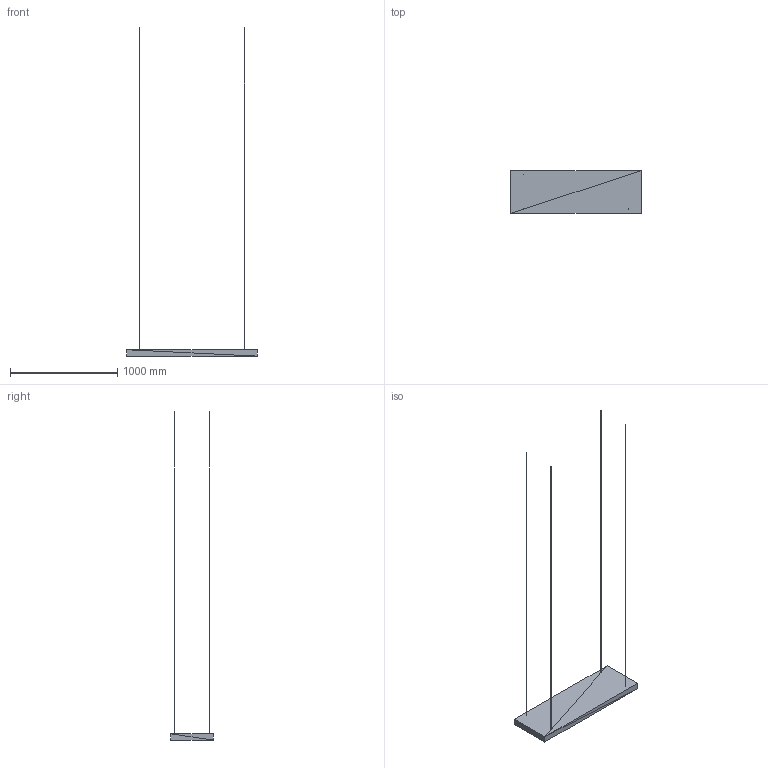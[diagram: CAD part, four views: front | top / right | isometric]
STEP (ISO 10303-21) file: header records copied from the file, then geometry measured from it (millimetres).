
FILE_DESCRIPTION(('ISINAC STEP AP214'),'2;1');
FILE_NAME('ISINAC_R.1220.400_60mm_COLGADO','2026-05-03T10:49:19',('ISINAC'),('www.isinac.com'),'ISINAC BIM Generator 1.0','','');
FILE_SCHEMA(('AUTOMOTIVE_DESIGN'));
Length unit declared in the file: millimetre
Products named in the file (1): ISINAC_R.1220.400_60mm_COLGADO
Bounding box: 1220 x 400 x 3060 mm (x, y, z)
Surface area: 1278446 mm2 (no closed solid volume)
Topology: 0 solids, 92 shells, 92 faces, 276 edges, 276 vertices
Faces by surface type: plane 92
Entity records: 1025 total; most frequent: CARTESIAN_POINT 368, DIRECTION 184, POLY_LOOP 92, FACE_OUTER_BOUND 92, AXIS2_PLACEMENT_3D 92, PLANE 92, FACE_SURFACE 92, CLOSED_SHELL 1
